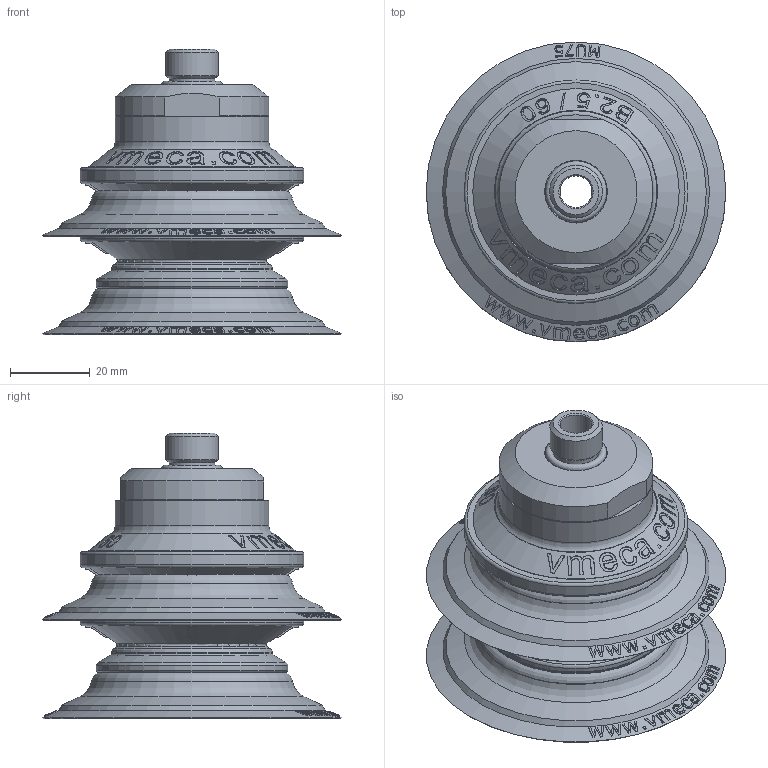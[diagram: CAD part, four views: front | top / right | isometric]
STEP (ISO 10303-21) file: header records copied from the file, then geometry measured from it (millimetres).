
FILE_DESCRIPTION( ( 'Unknown' ), '1' );
FILE_NAME( 'C:/Documents and Settings/Administrator/官帕 拳搁/Magic Cup (Dim)/B2.5/MU TYPE/B2.5-60/B2.5-60-MU75-N6-G-F2-14M.stp', 'Unknown', ( 'Unknown' ), ( 'Unknown' ), 'XStep 1.0', 'Unknown', ' ' );
FILE_SCHEMA( ( 'automotive_design' ) );
Length unit declared in the file: millimetre
Products named in the file (8): Assem1; Assem2; Assem3; B2.5-60_DIM; 60-14M; 14M-Oring(DIM); MU TYPE 60 STOPPER(DIM); MU75(DIM)
Bounding box: 75 x 75 x 71.56 mm (x, y, z)
Volume: 154627.7 mm3; surface area: 132447.6 mm2
Topology: 15 solids, 15 shells, 1641 faces, 3996 edges, 2586 vertices
Faces by surface type: bspline 651, plane 408, cone 255, torus 183, cylinder 120, revolution 24
Full cylindrical faces by diameter (mm): 1 x24, 8 x3, 10 x3, 11.5 x3, 13.2 x3, 14 x3, 15.3 x3, 18 x6, 23 x3, 25.5 x3, 26.6 x6, 32 x9, 33 x3, 33.1 x6, 35 x3, 35.5 x3, 37.2 x6, 38.5 x3, 40 x3, 40.2 x3, 42.5 x6, 48 x3, 56 x6
Entity records: 28290 total; most frequent: CARTESIAN_POINT 17689, ORIENTED_EDGE 2372, DIRECTION 1290, EDGE_CURVE 1186, VERTEX_POINT 844, B_SPLINE_CURVE_WITH_KNOTS 808, EDGE_LOOP 766, FACE_OUTER_BOUND 641
